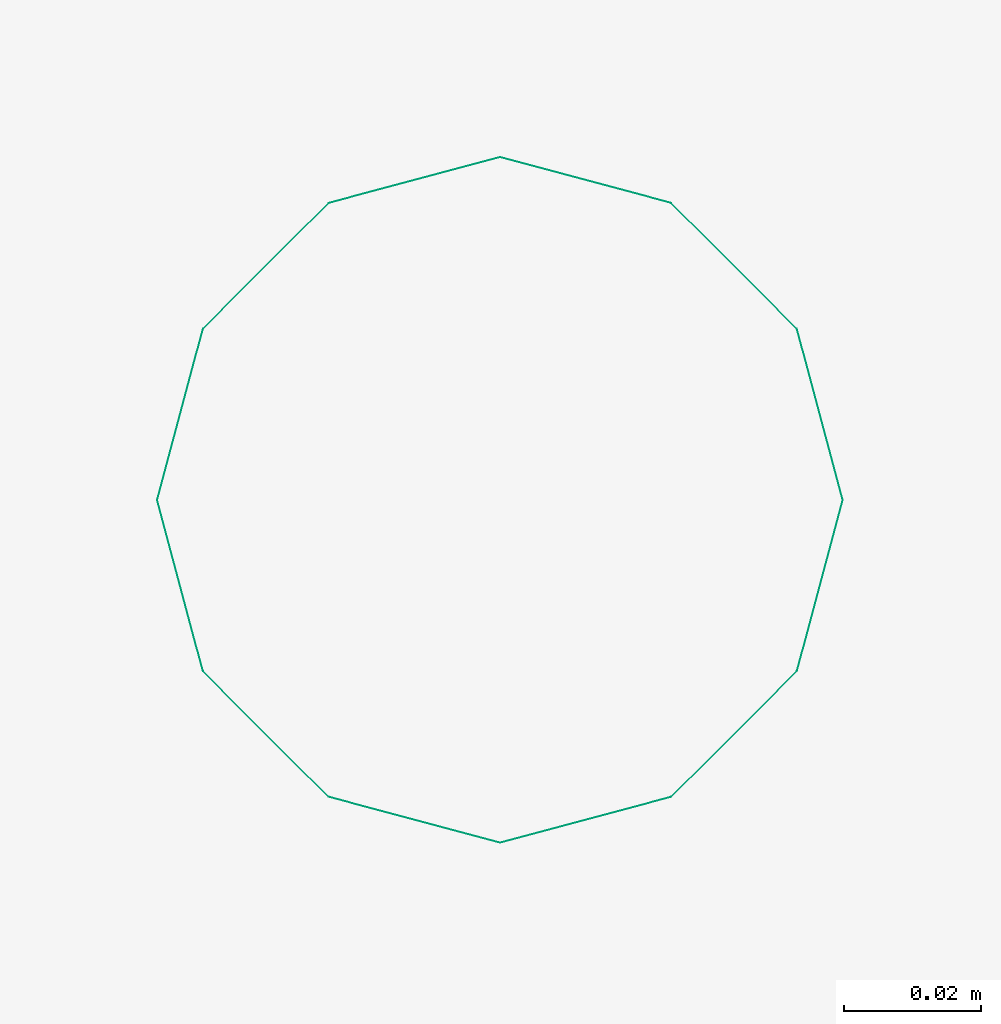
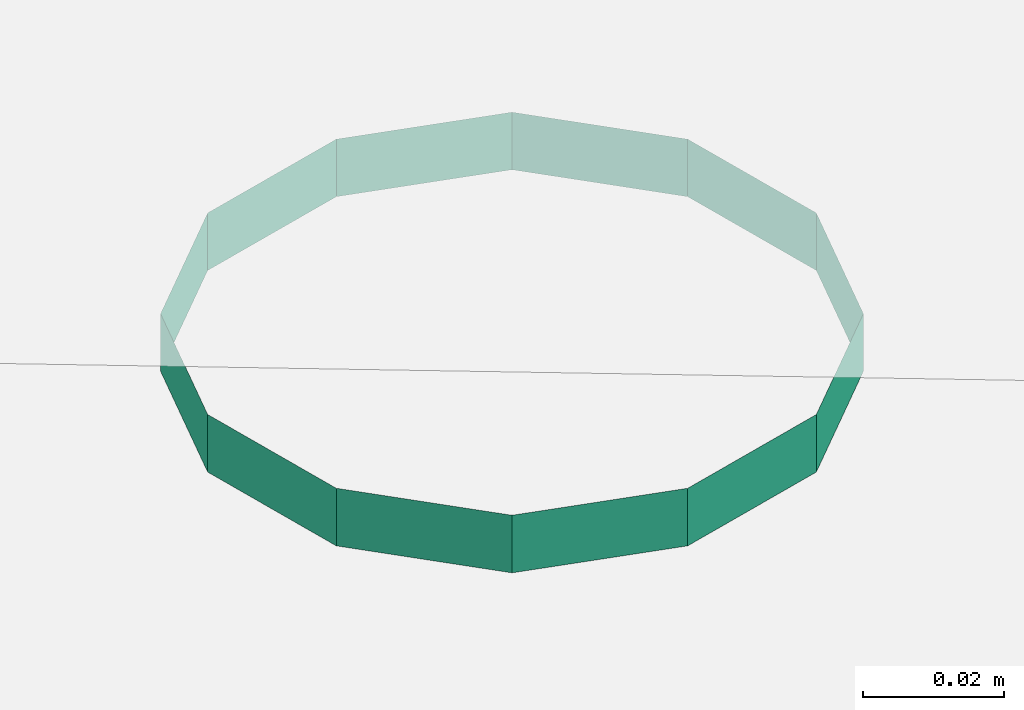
# One storey, part 51 of 54: 1 distribution flow element.
"""IFC2X3 building model written with IfcOpenShell, lengths in millimetres."""

from ifc_helpers import new_model, entity, si_unit, converted_unit, derived_unit, money_unit, direction, frame, origin_with_axes, place, context, subcontext, project, spatial, open_shell, surface_model, type_object, element, save


model = new_model("IFC2X3")

# Units and contexts
model_context = context("Model", 3, precision=0.01, world=origin_with_axes(), true_north=direction((0.0, 1.0)))
body_context = subcontext(model_context, "Body", "Model", "MODEL_VIEW")
ifc_project = project(units=[si_unit("LENGTHUNIT", "METRE", prefix="MILLI"), si_unit("AREAUNIT", "SQUARE_METRE"), si_unit("VOLUMEUNIT", "CUBIC_METRE"), converted_unit("PLANEANGLEUNIT", "DEGREE", entity("IfcPlaneAngleMeasure", 0.0174532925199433), si_unit("PLANEANGLEUNIT", "RADIAN"), dimensions=[0, 0, 0, 0, 0, 0, 0]), money_unit("EUR"), converted_unit("TIMEUNIT", "Year", entity("IfcTimeMeasure", 31557600.0), si_unit("TIMEUNIT", "SECOND"), dimensions=[0, 0, 1, 0, 0, 0, 0]), si_unit("MASSUNIT", "GRAM", prefix="KILO"), si_unit("THERMODYNAMICTEMPERATUREUNIT", "DEGREE_CELSIUS"), si_unit("LUMINOUSINTENSITYUNIT", "LUMEN"), si_unit("ENERGYUNIT", "JOULE", prefix="MEGA"), derived_unit("THERMALCONDUCTANCEUNIT", [(si_unit("POWERUNIT", "WATT"), 1), (si_unit("LENGTHUNIT", "METRE"), -1), (si_unit("THERMODYNAMICTEMPERATUREUNIT", "KELVIN"), -1)]), derived_unit("SPECIFICHEATCAPACITYUNIT", [(si_unit("ENERGYUNIT", "JOULE"), 1), (si_unit("MASSUNIT", "GRAM", prefix="KILO"), -1), (si_unit("THERMODYNAMICTEMPERATUREUNIT", "KELVIN"), -1)]), derived_unit("MASSDENSITYUNIT", [(si_unit("MASSUNIT", "GRAM", prefix="KILO"), 1), (si_unit("VOLUMEUNIT", "CUBIC_METRE"), -1)])], contexts=[model_context])

# Site, building, storey
site_placement = place(None, origin_with_axes())
site = spatial("IfcSite", under=ifc_project, at=site_placement, Name="<site naam>", CompositionType="ELEMENT")
building_placement = place(site_placement, origin_with_axes())
building = spatial("IfcBuilding", under=site, at=building_placement, Name="<Naam gebouw>", CompositionType="ELEMENT")
storey_placement = place(building_placement, frame((0.0, 0.0, 8500.0), z_axis=(0.0, 0.0, 1.0), x_axis=(1.0, 0.0, 0.0)))
storey = spatial("IfcBuildingStorey", under=building, at=storey_placement, Name="02 2e verdieping", CompositionType="ELEMENT", Elevation=8500.0)

# Distribution flow element
valve_type = type_object("IfcValveType", Name="Regenpijp 27", PredefinedType="AIRRELEASE")
distribution_flow_element_placement = place(storey_placement, frame((3791.279156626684, -11669.99999999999, 0.0), z_axis=(0.0, 0.0, 1.0), x_axis=(1.0, 0.0, 0.0)))
element("IfcDistributionFlowElement", 1, at=distribution_flow_element_placement, inside=storey, type_object=valve_type, Name="52_Wasmachine_Lege", context=body_context, shape_type="SurfaceModel", body=[
    surface_model("IfcShellBasedSurfaceModel", [(-50.0, -30.0, 9.999999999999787), (-50.0, -30.0, 0.0), (-43.30127018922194, -54.99999999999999, 0.0), (-43.30127018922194, -54.99999999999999, 9.999999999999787), (-43.30127018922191, -4.999999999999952, 9.999999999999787), (-43.30127018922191, -4.999999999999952, 0.0), (-25.00000000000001, -73.30127018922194, 0.0), (-25.00000000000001, -73.30127018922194, 9.999999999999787), (-24.99999999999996, 13.30127018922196, 9.999999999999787), (-24.99999999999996, 13.30127018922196, 0.0), (0.0, -80.0, 0.0), (0.0, -80.0, 9.999999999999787), (0.0, 20.0, 9.999999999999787), (0.0, 20.0, 0.0), (24.99999999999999, -73.30127018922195, 0.0), (24.99999999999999, -73.30127018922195, 9.999999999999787), (25.00000000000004, 13.30127018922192, 9.999999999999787), (25.00000000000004, 13.30127018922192, 0.0), (43.30127018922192, -55.00000000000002, 0.0), (43.30127018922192, -55.00000000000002, 9.999999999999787), (43.30127018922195, -5.000000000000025, 9.999999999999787), (43.30127018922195, -5.000000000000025, 0.0), (50.0, -30.00000000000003, 0.0), (50.0, -30.00000000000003, 9.999999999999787)], [open_shell([[[0, 1, 2, 3]], [[4, 5, 1, 0]], [[3, 2, 6, 7]], [[8, 9, 5, 4]], [[7, 6, 10, 11]], [[12, 13, 9, 8]], [[11, 10, 14, 15]], [[16, 17, 13, 12]], [[15, 14, 18, 19]], [[20, 21, 17, 16]], [[19, 18, 22, 23]], [[23, 22, 21, 20]]])]),
])

save(model, "model.ifc")
